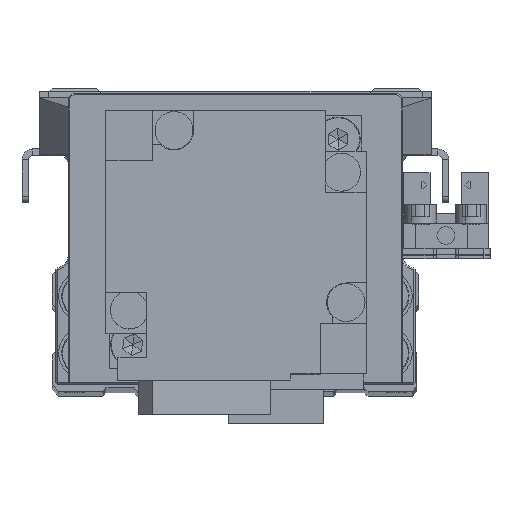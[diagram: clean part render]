
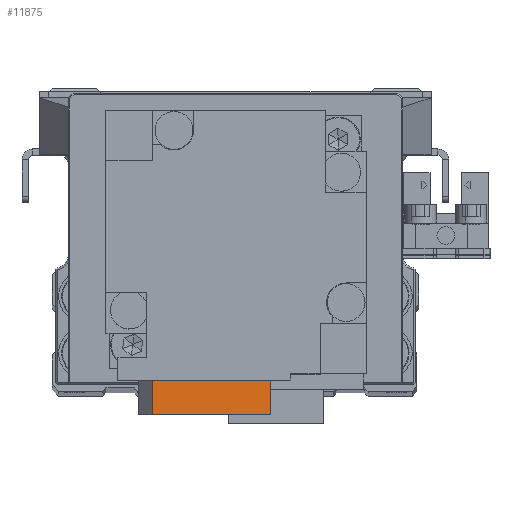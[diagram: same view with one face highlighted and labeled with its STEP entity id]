
A CAD part, top view. The second image highlights one B-rep face of the part: STEP entity #11875.
In plain terms, the highlighted planar face has unit normal (0.156, 0, 0.988) as drawn and (-0.156, 0, -0.988) by its records, which use the part's own axes.
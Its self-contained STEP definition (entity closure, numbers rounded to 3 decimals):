
#66 = DIRECTION ( 'NONE',  ( 0.988, 0., -0.156 ) ) ;
#2298 = ORIENTED_EDGE ( 'NONE', *, *, #4586, .F. ) ;
#4005 = VERTEX_POINT ( 'NONE', #5979 ) ;
#4586 = EDGE_CURVE ( 'NONE', #4005, #6231, #33949, .T. ) ;
#5979 = CARTESIAN_POINT ( 'NONE',  ( -5.583, -22., -76.124 ) ) ;
#6231 = VERTEX_POINT ( 'NONE', #34846 ) ;
#8294 = DIRECTION ( 'NONE',  ( 0., 1., 0. ) ) ;
#8349 = AXIS2_PLACEMENT_3D ( 'NONE', #14699, #15213, #15172 ) ;
#9817 = DIRECTION ( 'NONE',  ( 0.988, 0., -0.156 ) ) ;
#11270 = VERTEX_POINT ( 'NONE', #14147 ) ;
#11875 = ADVANCED_FACE ( 'NONE', ( #28058 ), #25734, .F. ) ;
#11892 = VECTOR ( 'NONE', #66, 1000. ) ;
#13781 = VECTOR ( 'NONE', #22265, 1000. ) ;
#14147 = CARTESIAN_POINT ( 'NONE',  ( 13.183, -22., -79.096 ) ) ;
#14699 = CARTESIAN_POINT ( 'NONE',  ( 3.8, -24.75, -77.61 ) ) ;
#14985 = LINE ( 'NONE', #26823, #11892 ) ;
#15172 = DIRECTION ( 'NONE',  ( 0.988, 0., -0.156 ) ) ;
#15213 = DIRECTION ( 'NONE',  ( 0.156, 0., 0.988 ) ) ;
#16442 = ORIENTED_EDGE ( 'NONE', *, *, #20980, .F. ) ;
#17233 = EDGE_LOOP ( 'NONE', ( #16442, #25669, #2298, #37681 ) ) ;
#19156 = EDGE_CURVE ( 'NONE', #6231, #37579, #14985, .T. ) ;
#20980 = EDGE_CURVE ( 'NONE', #37579, #11270, #22940, .T. ) ;
#22175 = CARTESIAN_POINT ( 'NONE',  ( -5.583, -24.75, -76.124 ) ) ;
#22265 = DIRECTION ( 'NONE',  ( 0., -1., 0. ) ) ;
#22940 = LINE ( 'NONE', #35050, #24253 ) ;
#24253 = VECTOR ( 'NONE', #8294, 1000. ) ;
#24459 = LINE ( 'NONE', #36549, #36739 ) ;
#25669 = ORIENTED_EDGE ( 'NONE', *, *, #19156, .F. ) ;
#25734 = PLANE ( 'NONE',  #8349 ) ;
#26410 = EDGE_CURVE ( 'NONE', #4005, #11270, #24459, .T. ) ;
#26823 = CARTESIAN_POINT ( 'NONE',  ( 3.8, -27.5, -77.61 ) ) ;
#28058 = FACE_OUTER_BOUND ( 'NONE', #17233, .T. ) ;
#33949 = LINE ( 'NONE', #22175, #13781 ) ;
#34846 = CARTESIAN_POINT ( 'NONE',  ( -5.583, -27.5, -76.124 ) ) ;
#35050 = CARTESIAN_POINT ( 'NONE',  ( 13.183, -24.75, -79.096 ) ) ;
#35803 = CARTESIAN_POINT ( 'NONE',  ( 13.183, -27.5, -79.096 ) ) ;
#36549 = CARTESIAN_POINT ( 'NONE',  ( -5.583, -22., -76.124 ) ) ;
#36739 = VECTOR ( 'NONE', #9817, 1000. ) ;
#37579 = VERTEX_POINT ( 'NONE', #35803 ) ;
#37681 = ORIENTED_EDGE ( 'NONE', *, *, #26410, .T. ) ;
